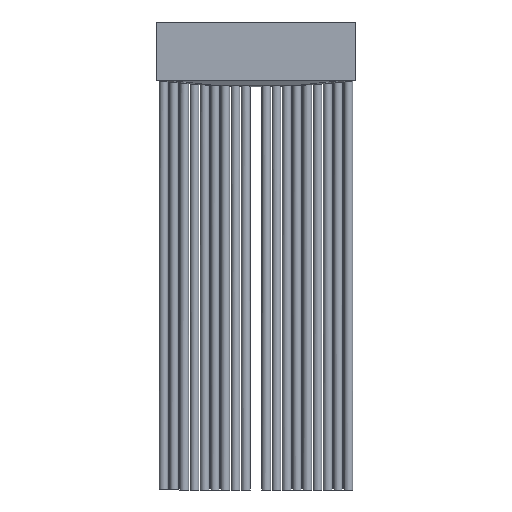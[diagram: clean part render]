
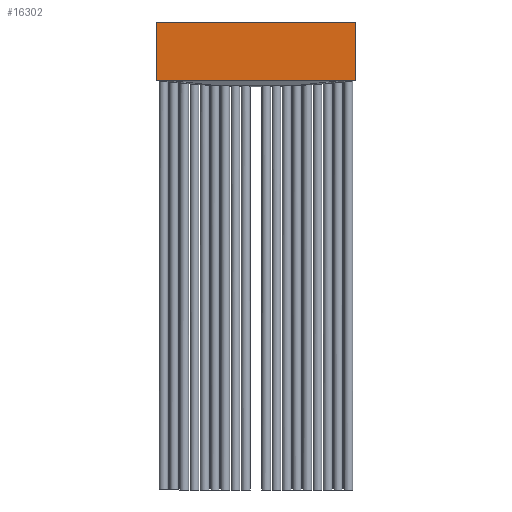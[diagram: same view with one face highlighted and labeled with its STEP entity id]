
A CAD part, front view. The second image highlights one B-rep face of the part: STEP entity #16302.
In plain terms, the highlighted planar face has unit normal (0, -1, 0).
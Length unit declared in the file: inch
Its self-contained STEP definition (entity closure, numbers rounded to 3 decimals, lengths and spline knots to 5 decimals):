
#621 = VECTOR ( 'NONE', #29911, 39.37008 ) ;
#1036 = CARTESIAN_POINT ( 'NONE',  ( -0.485, -0.0375, -0.1425 ) ) ;
#3108 = EDGE_CURVE ( 'NONE', #4159, #16603, #20679, .T. ) ;
#3910 = EDGE_CURVE ( 'NONE', #4159, #17119, #20303, .T. ) ;
#4077 = CARTESIAN_POINT ( 'NONE',  ( -1.985, -0.0375, -0.1425 ) ) ;
#4119 = ORIENTED_EDGE ( 'NONE', *, *, #3910, .F. ) ;
#4159 = VERTEX_POINT ( 'NONE', #1036 ) ;
#4784 = DIRECTION ( 'NONE',  ( 0., 0., 1. ) ) ;
#4835 = EDGE_CURVE ( 'NONE', #14744, #17119, #14025, .T. ) ;
#5851 = FACE_OUTER_BOUND ( 'NONE', #17011, .T. ) ;
#6888 = AXIS2_PLACEMENT_3D ( 'NONE', #4077, #26566, #11699 ) ;
#6896 = CARTESIAN_POINT ( 'NONE',  ( 0.485, -0.0375, 0.1425 ) ) ;
#8021 = ORIENTED_EDGE ( 'NONE', *, *, #26170, .T. ) ;
#8939 = VECTOR ( 'NONE', #14598, 39.37008 ) ;
#10691 = ORIENTED_EDGE ( 'NONE', *, *, #3108, .T. ) ;
#11699 = DIRECTION ( 'NONE',  ( 1., 0., 0. ) ) ;
#12492 = CARTESIAN_POINT ( 'NONE',  ( -1.985, -0.0375, 0.1425 ) ) ;
#12716 = DIRECTION ( 'NONE',  ( 0., 0., 1. ) ) ;
#14025 = LINE ( 'NONE', #12492, #621 ) ;
#14598 = DIRECTION ( 'NONE',  ( 1., 0., 0. ) ) ;
#14744 = VERTEX_POINT ( 'NONE', #15520 ) ;
#14939 = CARTESIAN_POINT ( 'NONE',  ( -1.985, -0.0375, -0.1425 ) ) ;
#15463 = CARTESIAN_POINT ( 'NONE',  ( -0.485, -0.0375, 0.1425 ) ) ;
#15520 = CARTESIAN_POINT ( 'NONE',  ( 0.485, -0.0375, 0.1425 ) ) ;
#16302 = ADVANCED_FACE ( 'NONE', ( #5851 ), #28984, .T. ) ;
#16603 = VERTEX_POINT ( 'NONE', #17998 ) ;
#16605 = VECTOR ( 'NONE', #4784, 39.37008 ) ;
#17011 = EDGE_LOOP ( 'NONE', ( #4119, #10691, #8021, #17889 ) ) ;
#17119 = VERTEX_POINT ( 'NONE', #15463 ) ;
#17889 = ORIENTED_EDGE ( 'NONE', *, *, #4835, .T. ) ;
#17998 = CARTESIAN_POINT ( 'NONE',  ( 0.485, -0.0375, -0.1425 ) ) ;
#20303 = LINE ( 'NONE', #27625, #26119 ) ;
#20679 = LINE ( 'NONE', #14939, #8939 ) ;
#23212 = LINE ( 'NONE', #6896, #16605 ) ;
#26119 = VECTOR ( 'NONE', #12716, 39.37008 ) ;
#26170 = EDGE_CURVE ( 'NONE', #16603, #14744, #23212, .T. ) ;
#26566 = DIRECTION ( 'NONE',  ( 0., -1., 0. ) ) ;
#27625 = CARTESIAN_POINT ( 'NONE',  ( -0.485, -0.0375, -0.1425 ) ) ;
#28984 = PLANE ( 'NONE',  #6888 ) ;
#29911 = DIRECTION ( 'NONE',  ( -1., 0., 0. ) ) ;
